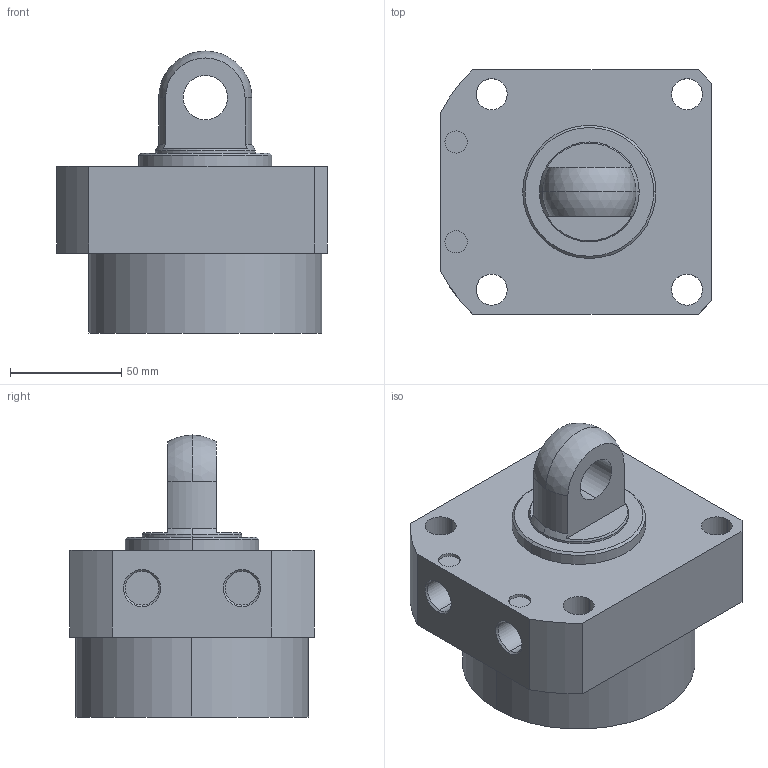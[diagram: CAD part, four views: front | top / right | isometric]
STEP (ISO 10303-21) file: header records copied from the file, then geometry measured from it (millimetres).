
FILE_DESCRIPTION (( 'STEP AP203' ), '1' );
FILE_NAME ('CLLR-105CP-015.STEP', '2019-12-19T02:01:18', ( '' ), ( '' ), 'SwSTEP 2.0', 'SolidWorks 2015', '' );
FILE_SCHEMA (( 'CONFIG_CONTROL_DESIGN' ));
Length unit declared in the file: millimetre
Products named in the file (1): CLLR-105CP-015
Bounding box: 122 x 110 x 127 mm (x, y, z)
Volume: 837926.3 mm3; surface area: 69554.2 mm2
Topology: 1 solids, 1 shells, 57 faces, 135 edges, 87 vertices
Faces by surface type: cylinder 29, plane 18, cone 8, sphere 2
Entity records: 1770 total; most frequent: DIRECTION 319, CARTESIAN_POINT 292, ORIENTED_EDGE 270, EDGE_CURVE 135, AXIS2_PLACEMENT_3D 130, VERTEX_POINT 87, EDGE_LOOP 74, CIRCLE 72
